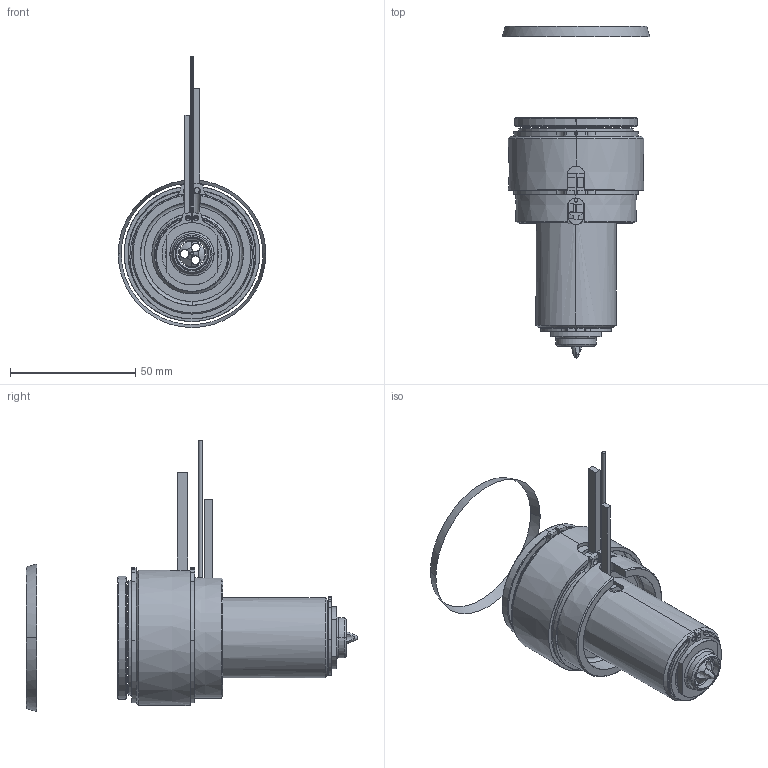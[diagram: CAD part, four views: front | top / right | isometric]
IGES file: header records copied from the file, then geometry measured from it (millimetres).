
Start section: SolidWorks IGES file using analytic representation for surfaces
Global section: file name: C:\Documents and Settings\ws-20\Desktop\TEM\UGEP5501-S-A-1 [Øf-1.18 ØC-12].IGS; native system: SolidWorks 2012; preprocessor: SolidWorks 2012; author: ws-20; date: 120427.075838; units: millimetre
Bounding box: 58.79 x 132.24 x 108.04 mm (x, y, z)
Surface area: 49369.4 mm2 (no closed solid volume)
Topology: 0 solids, 0 shells, 180 faces, 3671 edges, 3671 vertices
Faces by surface type: revolution 115, bspline 65
